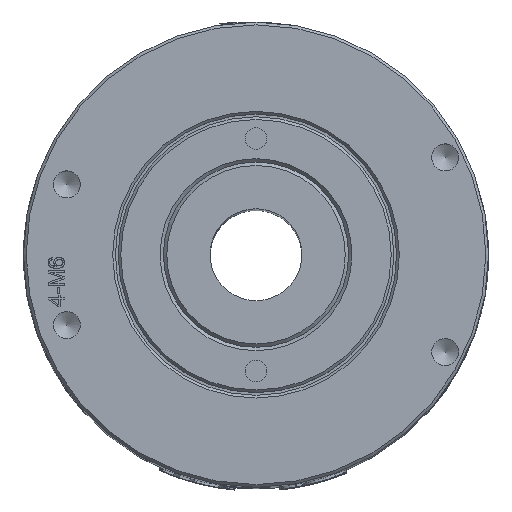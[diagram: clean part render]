
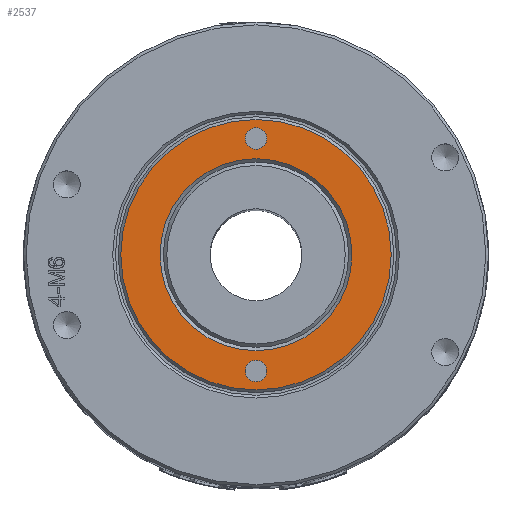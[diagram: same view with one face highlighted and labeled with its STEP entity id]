
A CAD part, top view. The second image highlights one B-rep face of the part: STEP entity #2537.
In plain terms, the highlighted planar face has unit normal (0, 0, 1).
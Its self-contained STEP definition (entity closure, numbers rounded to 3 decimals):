
#210=FACE_BOUND('',#6667,.T.);
#211=FACE_BOUND('',#6668,.T.);
#212=FACE_BOUND('',#6669,.T.);
#213=FACE_BOUND('',#6670,.T.);
#664=CIRCLE('',#23222,25.);
#665=CIRCLE('',#23223,2.);
#666=CIRCLE('',#23224,2.);
#667=CIRCLE('',#23225,17.75);
#1267=PLANE('',#23226);
#2537=ADVANCED_FACE('',(#210,#211,#212,#213),#1267,.T.);
#6667=EDGE_LOOP('',(#10235));
#6668=EDGE_LOOP('',(#10236));
#6669=EDGE_LOOP('',(#10237));
#6670=EDGE_LOOP('',(#10238));
#10235=ORIENTED_EDGE('',*,*,#18413,.T.);
#10236=ORIENTED_EDGE('',*,*,#18414,.T.);
#10237=ORIENTED_EDGE('',*,*,#18415,.T.);
#10238=ORIENTED_EDGE('',*,*,#18416,.T.);
#15471=VERTEX_POINT('',#40039);
#15472=VERTEX_POINT('',#40041);
#15473=VERTEX_POINT('',#40043);
#15474=VERTEX_POINT('',#40045);
#18413=EDGE_CURVE('',#15471,#15471,#664,.T.);
#18414=EDGE_CURVE('',#15472,#15472,#665,.T.);
#18415=EDGE_CURVE('',#15473,#15473,#666,.T.);
#18416=EDGE_CURVE('',#15474,#15474,#667,.T.);
#23222=AXIS2_PLACEMENT_3D('',#40038,#25306,#25307);
#23223=AXIS2_PLACEMENT_3D('',#40040,#25308,#25309);
#23224=AXIS2_PLACEMENT_3D('',#40042,#25310,#25311);
#23225=AXIS2_PLACEMENT_3D('',#40044,#25312,#25313);
#23226=AXIS2_PLACEMENT_3D('',#40046,#25314,#25315);
#25306=DIRECTION('',(0.,0.,1.));
#25307=DIRECTION('',(1.,0.,0.));
#25308=DIRECTION('',(0.,0.,-1.));
#25309=DIRECTION('',(1.,0.,0.));
#25310=DIRECTION('',(0.,0.,-1.));
#25311=DIRECTION('',(-1.,0.,0.));
#25312=DIRECTION('',(0.,0.,-1.));
#25313=DIRECTION('',(1.,0.,0.));
#25314=DIRECTION('',(0.,0.,1.));
#25315=DIRECTION('',(1.,0.,0.));
#40038=CARTESIAN_POINT('',(0.,0.,181.5));
#40039=CARTESIAN_POINT('',(25.,0.,181.5));
#40040=CARTESIAN_POINT('',(0.,21.5,181.5));
#40041=CARTESIAN_POINT('',(2.,21.5,181.5));
#40042=CARTESIAN_POINT('',(0.,-21.5,181.5));
#40043=CARTESIAN_POINT('',(-2.,-21.5,181.5));
#40044=CARTESIAN_POINT('',(0.,0.,181.5));
#40045=CARTESIAN_POINT('',(17.75,0.,181.5));
#40046=CARTESIAN_POINT('',(0.,0.,181.5));
